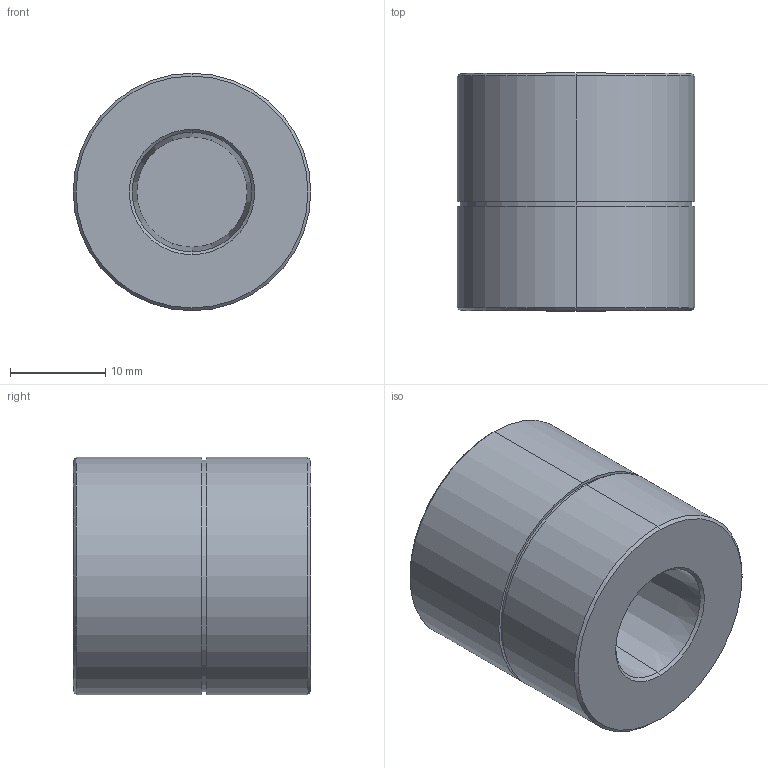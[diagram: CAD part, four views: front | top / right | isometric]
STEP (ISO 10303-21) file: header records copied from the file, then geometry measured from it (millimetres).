
FILE_DESCRIPTION (( 'STEP AP203' ), '1' );
FILE_NAME ('SW-PN-F12-T.STEP', '2022-03-28T07:14:26', ( '' ), ( '' ), 'SwSTEP 2.0', 'SolidWorks 2015', '' );
FILE_SCHEMA (( 'CONFIG_CONTROL_DESIGN' ));
Length unit declared in the file: millimetre
Products named in the file (2): SW-PN-F12-T
Bounding box: 25 x 25 x 25 mm (x, y, z)
Volume: 9627.6 mm3; surface area: 3812.4 mm2
Topology: 1 solids, 1 shells, 22 faces, 42 edges, 26 vertices
Faces by surface type: cylinder 8, cone 8, plane 6
Entity records: 719 total; most frequent: DIRECTION 116, CARTESIAN_POINT 92, ORIENTED_EDGE 84, AXIS2_PLACEMENT_3D 50, EDGE_CURVE 42, EDGE_LOOP 26, VERTEX_POINT 26, CIRCLE 26
